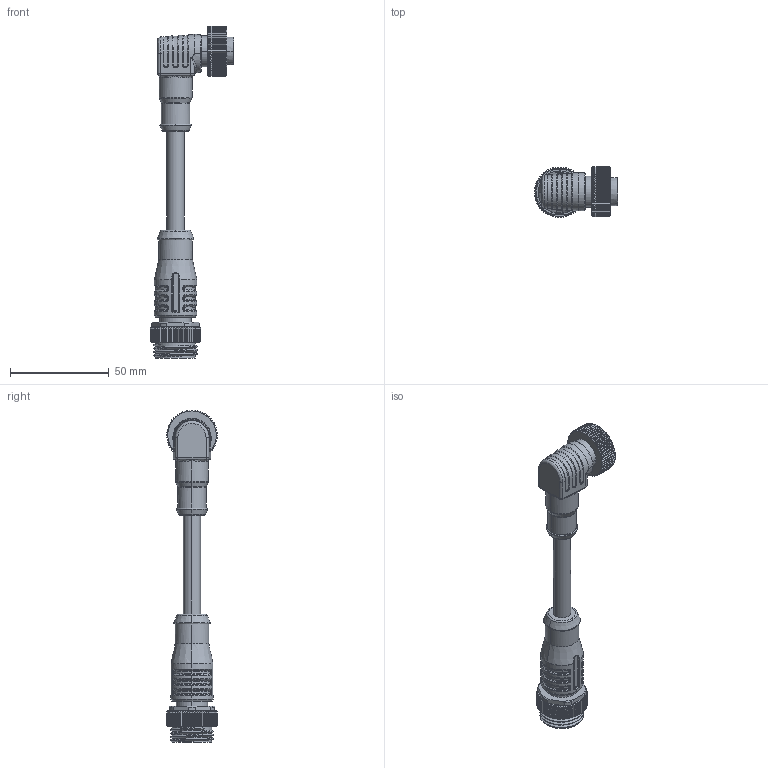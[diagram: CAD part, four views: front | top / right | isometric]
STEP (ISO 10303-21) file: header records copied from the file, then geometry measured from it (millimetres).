
FILE_DESCRIPTION (( 'STEP AP203' ), '1' );
FILE_NAME ('0PI241-XXX.STEP', '2023-11-17T07:32:53', ( 'ADMIN' ), ( '' ), 'SwSTEP 2.0', 'SolidWorks 2016', '' );
FILE_SCHEMA (( 'CONFIG_CONTROL_DESIGN' ));
Length unit declared in the file: millimetre
Products named in the file (1): 0PI241-XXX
Bounding box: 42.1 x 25.5 x 167.97 mm (x, y, z)
Volume: 38472.9 mm3; surface area: 18610.1 mm2
Topology: 1 solids, 11 shells, 1464 faces, 3593 edges, 2109 vertices
Faces by surface type: cone 464, plane 421, cylinder 328, bspline 219, torus 24, sphere 8
Entity records: 79560 total; most frequent: CARTESIAN_POINT 48297, ORIENTED_EDGE 7138, DIRECTION 5808, EDGE_CURVE 3569, AXIS2_PLACEMENT_3D 2449, VERTEX_POINT 2109, EDGE_LOOP 1526, FACE_OUTER_BOUND 1464
